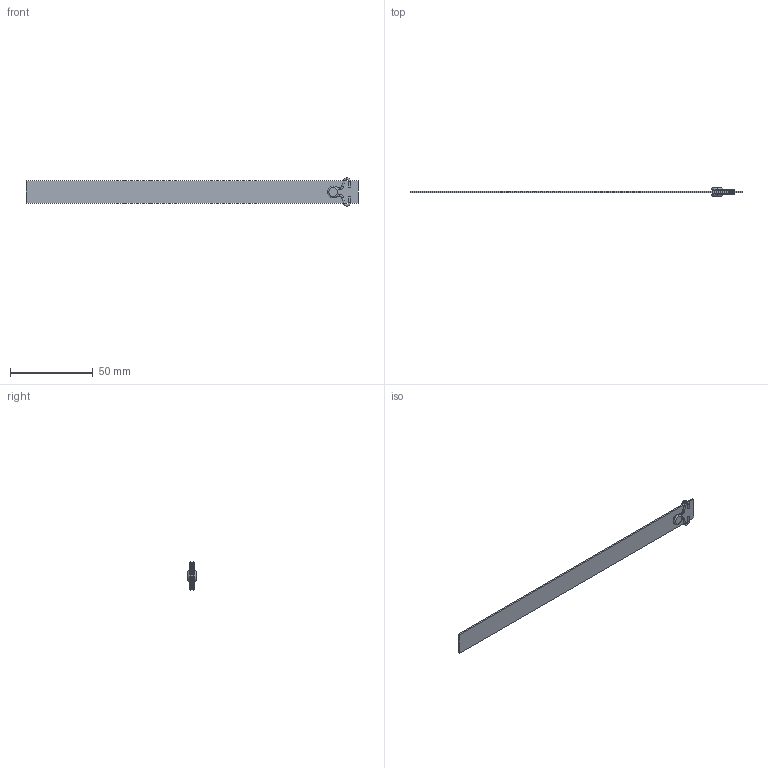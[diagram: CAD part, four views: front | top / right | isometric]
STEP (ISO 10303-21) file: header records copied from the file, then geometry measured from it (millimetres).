
FILE_DESCRIPTION (( 'STEP AP203' ), '1' );
FILE_NAME ('RLA-14x200.STEP', '2015-12-10T16:07:02', ( 'Balzi' ), ( '' ), 'SwSTEP 2.0', 'SolidWorks 2015', '' );
FILE_SCHEMA (( 'CONFIG_CONTROL_DESIGN' ));
Length unit declared in the file: millimetre
Products named in the file (1): RLA-14x200
Bounding box: 200 x 5 x 16.99 mm (x, y, z)
Volume: 2886.5 mm3; surface area: 6394 mm2
Topology: 5 solids, 5 shells, 84 faces, 162 edges, 88 vertices
Faces by surface type: torus 40, cylinder 30, plane 14
Entity records: 2199 total; most frequent: DIRECTION 452, CARTESIAN_POINT 335, ORIENTED_EDGE 324, AXIS2_PLACEMENT_3D 205, EDGE_CURVE 162, CIRCLE 120, VERTEX_POINT 88, EDGE_LOOP 86
